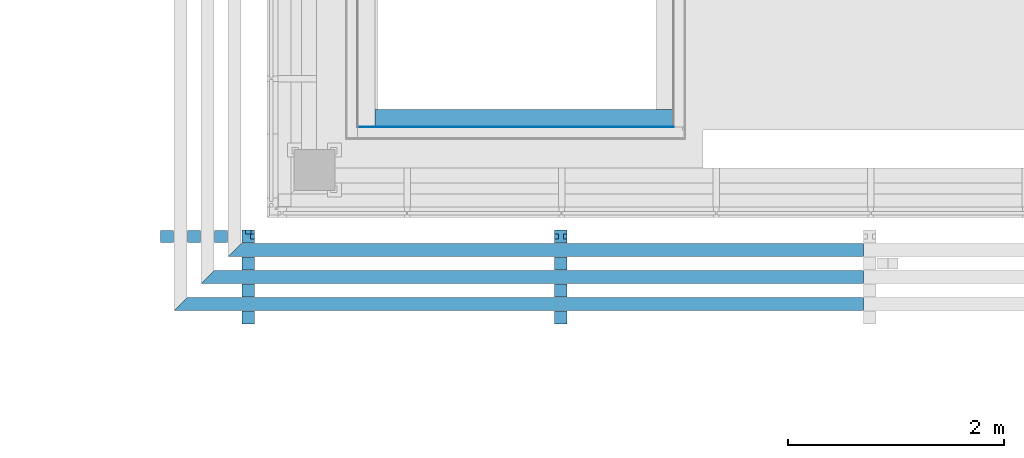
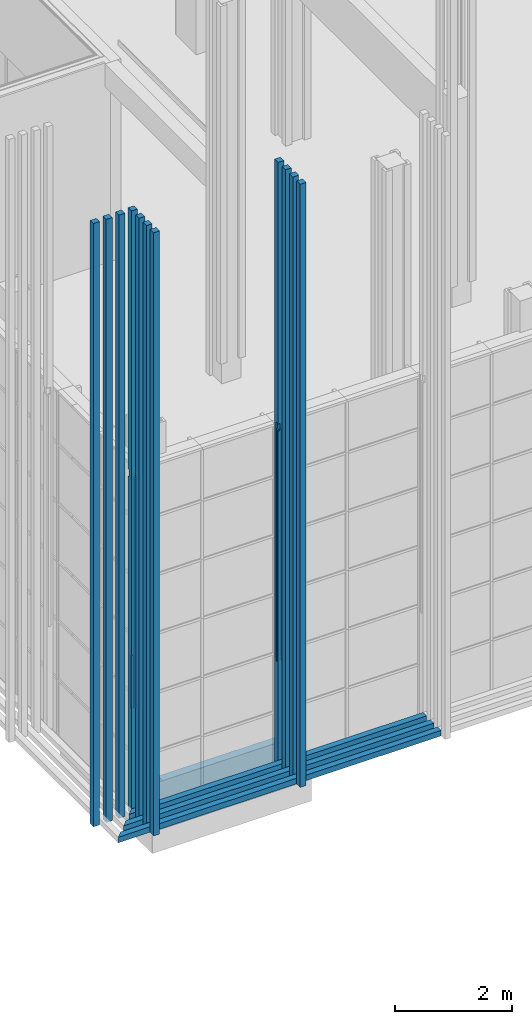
# One storey, part 126 of 260: 8 discrete accessories, 2 building element parts, 1 element without a shape of its own.
"""IFC2X3 building model written with IfcOpenShell, lengths in millimetres."""

from ifc_helpers import new_model, entity, si_unit, converted_unit, derived_unit, money_unit, direction, frame, origin_with_axes, place, context, subcontext, project, spatial, faceted_brep, material, material_list, type_object, element, aggregate, save


model = new_model("IFC2X3")

# Units and contexts
model_context = context("Model", 3, precision=0.01, world=origin_with_axes(), true_north=direction((0.0, 1.0)))
body_context = subcontext(model_context, "Body", "Model", "MODEL_VIEW")
ifc_project = project(units=[si_unit("LENGTHUNIT", "METRE", prefix="MILLI"), si_unit("AREAUNIT", "SQUARE_METRE"), si_unit("VOLUMEUNIT", "CUBIC_METRE"), converted_unit("PLANEANGLEUNIT", "DEGREE", entity("IfcPlaneAngleMeasure", 0.0174532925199), si_unit("PLANEANGLEUNIT", "RADIAN"), dimensions=[0, 0, 0, 0, 0, 0, 0]), money_unit("EUR"), converted_unit("TIMEUNIT", "Year", entity("IfcTimeMeasure", 31556926.0), si_unit("TIMEUNIT", "SECOND"), dimensions=[0, 0, 1, 0, 0, 0, 0]), si_unit("MASSUNIT", "GRAM", prefix="KILO"), si_unit("THERMODYNAMICTEMPERATUREUNIT", "DEGREE_CELSIUS"), si_unit("LUMINOUSINTENSITYUNIT", "LUMEN"), si_unit("ENERGYUNIT", "JOULE", prefix="MEGA"), derived_unit("THERMALCONDUCTANCEUNIT", [(si_unit("POWERUNIT", "WATT"), 1), (si_unit("LENGTHUNIT", "METRE"), -1), (si_unit("THERMODYNAMICTEMPERATUREUNIT", "KELVIN"), -1)]), derived_unit("SPECIFICHEATCAPACITYUNIT", [(si_unit("ENERGYUNIT", "JOULE"), 1), (si_unit("MASSUNIT", "GRAM", prefix="KILO"), -1), (si_unit("THERMODYNAMICTEMPERATUREUNIT", "KELVIN"), -1)]), derived_unit("MASSDENSITYUNIT", [(si_unit("MASSUNIT", "GRAM", prefix="KILO"), 1), (si_unit("VOLUMEUNIT", "CUBIC_METRE"), -1)])], contexts=[model_context])

# Site, building, storey
site_placement = place(None, origin_with_axes())
site = spatial("IfcSite", under=ifc_project, at=site_placement, Name="Kolde pst 67a", CompositionType="ELEMENT")
building_placement = place(site_placement, origin_with_axes())
building = spatial("IfcBuilding", under=site, at=building_placement, Name="Riigigümnaasium", CompositionType="ELEMENT")
storey_placement = place(building_placement, origin_with_axes())
storey = spatial("IfcBuildingStorey", under=building, at=storey_placement, Name="1. korrus", CompositionType="ELEMENT", Elevation=0.0)

# Discrete accessories
ifc_material_1 = material(Name="_VÄLISVIIMISTLUS - sõrmjätkatud puitprussid 120x115mm, liitekohad vähemärgatavad, Platowood sõrmjätkatud kuusk või samaväärne; eeltöödeldud tuletõkkevõõbaga, tuletundlikkus B-s1, d0, Woodsafe Exterior WFX™ või samaväärne; kinnitused vastavalt EK osale")
ifc_material_list_1 = material_list([ifc_material_1, ifc_material_1, ifc_material_1, ifc_material_1])
discrete_accessory_type_1 = type_object("IfcDiscreteAccessoryType", Name="120 4-ne vertikaalne 870 x 115")
discrete_accessory_1_placement = place(storey_placement, frame((23602.5030689, 23687.999767, 280.0), z_axis=(0.0, 0.0, 1.0), x_axis=(-3.13999128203e-06, 0.999999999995, 0.0)))
element("IfcDiscreteAccessory", 1, at=discrete_accessory_1_placement, inside=storey, type_object=discrete_accessory_type_1, material=ifc_material_list_1, Name="Päikesevarjestus", context=body_context, shape_type="Brep", body=[
    faceted_brep([(-47.9999120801, -37.4998901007, 3240.0), (-47.9999120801, -37.4998901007, 2150.0), (-48.0007441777, -69.9998458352, 2150.0), (-48.0007441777, -69.9998458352, 6990.0), (-48.0006421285, -37.5000001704, 6990.0), (-48.000634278, -34.9998458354, 6990.0), (-47.99990423, -34.9998458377, 3240.0), (-12.9999120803, -37.5000000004, 3240.0), (-12.9999120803, -37.5000000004, 2146.5), (-47.9999120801, -37.4998901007, 2146.5), (-47.99990423, -34.9998458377, 2150.0), (-98.0006342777, -34.9996888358, 2150.0), (-98.0007441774, -69.9996888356, 2150.0), (-98.0007441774, -69.9996888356, 6990.0), (-133.0, -70.0, 6990.0), (-133.0, -70.0, 0.0), (-13.0, -70.0, 0.0), (-13.0, -70.0, 12600.0), (-133.0, -70.0, 12600.0), (-133.0, -70.0, 7140.0), (-48.0007441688, -70.0, 7140.0), (-48.0026096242, -37.5000001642, 7140.0), (-47.9997550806, 45.0, 6990.0), (-13.0, -37.5000000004, 6990.0), (-13.0, 45.0, 6990.0), (-98.0006342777, -34.9996888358, 6990.0), (-12.9997550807, 12.4999999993, 3240.0), (-47.9997550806, 12.500109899, 3240.0), (-13.0, 45.0, 7140.0), (-13.0, 45.0, 12600.0), (-13.0, 45.0, 0.0), (-13.0, -37.5000000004, 7140.0), (-12.9997550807, 12.4999999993, 2146.5), (-47.9997550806, 12.500109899, 2146.5), (-133.0, -35.0016977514, 6990.0), (-133.0, 45.0, 0.0), (-133.0, -35.0016977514, 7140.0), (-133.0, 45.0, 12600.0), (-48.0027533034, -34.9968190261, 7140.0), (-47.9997550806, 45.0, 7140.0)], [[[0, 1, 2, 3, 4, 5, 6]], [[7, 8, 9, 1, 0]], [[1, 10, 11, 12, 2]], [[2, 12, 13, 14, 15, 16, 17, 18, 19, 20, 3]], [[21, 4, 3, 20]], [[22, 5, 4, 23, 24]], [[10, 6, 5, 25, 11]], [[26, 7, 0, 6, 27]], [[28, 29, 17, 16, 30, 24, 23, 31], [32, 8, 7, 26]], [[8, 32, 33, 9]], [[10, 1, 9, 33, 27, 6]], [[11, 25, 13, 12]], [[14, 13, 25, 34]], [[35, 15, 14, 34, 36, 19, 18, 37]], [[30, 16, 15, 35]], [[29, 37, 18, 17]], [[38, 39, 28, 31, 21, 20, 19, 36]], [[4, 21, 31, 23]], [[38, 5, 22, 39]], [[35, 37, 29, 28, 39, 22, 24, 30]], [[34, 25, 5, 38, 36]], [[32, 26, 27, 33]]]),
    faceted_brep([(-383.0, -70.0, 0.0), (-263.0, -70.0, 0.0), (-263.0, -70.0, 12600.0), (-383.0, -70.0, 12600.0), (-383.0, 45.0, 0.0), (-263.0, 45.0, 0.0), (-263.0, 45.0, 12600.0), (-383.0, 45.0, 12600.0)], [[[0, 1, 2, 3]], [[0, 4, 5, 1]], [[1, 5, 6, 2]], [[3, 2, 6, 7]], [[4, 0, 3, 7]], [[5, 4, 7, 6]]]),
    faceted_brep([(-633.0, -70.0, 0.0), (-513.0, -70.0, 0.0), (-513.0, -70.0, 12600.0), (-633.0, -70.0, 12600.0), (-633.0, 45.0, 0.0), (-513.0, 45.0, 0.0), (-513.0, 45.0, 12600.0), (-633.0, 45.0, 12600.0)], [[[0, 1, 2, 3]], [[0, 4, 5, 1]], [[1, 5, 6, 2]], [[3, 2, 6, 7]], [[4, 0, 3, 7]], [[5, 4, 7, 6]]]),
    faceted_brep([(-883.0, -70.0, 0.0), (-763.0, -70.0, 0.0), (-763.0, -70.0, 12600.0), (-883.0, -70.0, 12600.0), (-883.0, 45.0, 0.0), (-763.0, 45.0, 0.0), (-763.0, 45.0, 12600.0), (-883.0, 45.0, 12600.0)], [[[0, 1, 2, 3]], [[0, 4, 5, 1]], [[1, 5, 6, 2]], [[3, 2, 6, 7]], [[4, 0, 3, 7]], [[5, 4, 7, 6]]]),
])
discrete_accessory_2_placement = place(storey_placement, frame((26497.5025222, 23687.999745, 280.0), z_axis=(0.0, 0.0, 1.0), x_axis=(-3.13999128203e-06, 0.999999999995, 0.0)))
element("IfcDiscreteAccessory", 2, at=discrete_accessory_2_placement, inside=storey, type_object=discrete_accessory_type_1, material=ifc_material_list_1, Name="Päikesevarjestus", context=body_context, shape_type="Brep", body=[
    faceted_brep([(-48.0003611, 44.9997331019, 6990.0), (-48.0004709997, 9.99973310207, 6990.0), (-47.8300549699, 10.0027698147, 6990.0), (-47.8320637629, 45.0, 6990.0), (-48.0003611, 44.9997331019, 2150.0), (-48.0004709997, 9.99973310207, 2150.0), (-98.0004709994, 9.99989010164, 6990.0), (-133.0, 9.99788117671, 6990.0), (-133.0, 9.99788117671, 7140.0), (-47.8300549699, 10.0027698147, 7140.0), (-47.8320637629, 45.0, 7140.0), (-133.0, 45.0, 7140.0), (-133.0, 45.0, 12600.0), (-13.0, 45.0, 12600.0), (-13.0, 45.0, 0.0), (-133.0, 45.0, 0.0), (-133.0, 45.0, 6990.0), (-98.0003610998, 44.9998901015, 6990.0), (-98.0003610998, 44.9998901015, 2150.0), (-98.0004709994, 9.99989010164, 2150.0), (-133.0, -35.002244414, 7140.0), (-133.0, -70.0, 7140.0), (-133.0, -70.0, 12600.0), (-133.0, -70.0, 0.0), (-133.0, -70.0, 6990.0), (-133.0, -35.002244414, 6990.0), (-13.0, -70.0, 12600.0), (-13.0, -70.0, 0.0), (-48.0006124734, -34.9973655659, 7140.0), (-47.9986033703, -70.0, 7140.0), (-48.0007221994, -70.0003924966, 6990.0), (-48.0007221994, -70.0003924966, 2150.0), (-98.0007221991, -70.0002354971, 2150.0), (-98.0007221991, -70.0002354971, 6990.0), (-98.0006122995, -35.0002354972, 6990.0), (-48.0006122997, -35.0003924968, 6990.0), (-48.0006122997, -35.0003924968, 2150.0), (-98.0006122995, -35.0002354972, 2150.0)], [[[0, 1, 2, 3]], [[1, 0, 4, 5]], [[1, 6, 7, 8, 9, 2]], [[2, 9, 10, 3]], [[4, 0, 3, 10, 11, 12, 13, 14, 15, 16, 17, 18]], [[4, 18, 19, 5]], [[6, 1, 5, 19]], [[6, 17, 16, 7]], [[20, 21, 22, 12, 11, 8, 7, 16, 15, 23, 24, 25]], [[10, 9, 8, 11]], [[26, 13, 12, 22]], [[14, 13, 26, 27]], [[15, 14, 27, 23]], [[17, 6, 19, 18]], [[20, 28, 29, 21]], [[29, 30, 31, 32, 33, 24, 23, 27, 26, 22, 21]], [[34, 25, 24, 33]], [[28, 20, 25, 34, 35]], [[30, 29, 28, 35]], [[30, 35, 36, 31]], [[31, 36, 37, 32]], [[33, 32, 37, 34]], [[34, 37, 36, 35]]]),
    faceted_brep([(-383.0, -70.0, 0.0), (-263.0, -70.0, 0.0), (-263.0, -70.0, 12600.0), (-383.0, -70.0, 12600.0), (-383.0, 45.0, 0.0), (-263.0, 45.0, 0.0), (-263.0, 45.0, 12600.0), (-383.0, 45.0, 12600.0)], [[[0, 1, 2, 3]], [[0, 4, 5, 1]], [[1, 5, 6, 2]], [[3, 2, 6, 7]], [[4, 0, 3, 7]], [[5, 4, 7, 6]]]),
    faceted_brep([(-633.0, -70.0, 0.0), (-513.0, -70.0, 0.0), (-513.0, -70.0, 12600.0), (-633.0, -70.0, 12600.0), (-633.0, 45.0, 0.0), (-513.0, 45.0, 0.0), (-513.0, 45.0, 12600.0), (-633.0, 45.0, 12600.0)], [[[0, 1, 2, 3]], [[0, 4, 5, 1]], [[1, 5, 6, 2]], [[3, 2, 6, 7]], [[4, 0, 3, 7]], [[5, 4, 7, 6]]]),
    faceted_brep([(-883.0, -70.0, 0.0), (-763.0, -70.0, 0.0), (-763.0, -70.0, 12600.0), (-883.0, -70.0, 12600.0), (-883.0, 45.0, 0.0), (-763.0, 45.0, 0.0), (-763.0, 45.0, 12600.0), (-883.0, 45.0, 12600.0)], [[[0, 1, 2, 3]], [[0, 4, 5, 1]], [[1, 5, 6, 2]], [[3, 2, 6, 7]], [[4, 0, 3, 7]], [[5, 4, 7, 6]]]),
])
ifc_material_list_2 = material_list([ifc_material_1, ifc_material_1, ifc_material_1])
discrete_accessory_type_2 = type_object("IfcDiscreteAccessoryType", Name="120 4-ne vertikaalne -1 nurgaribi 620 x 115")
discrete_accessory_3_placement = place(storey_placement, frame((23688.0032589, 23627.4999036, 280.0), z_axis=(0.0, 0.0, 1.0), x_axis=(0.999999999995, 3.13999128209e-06, 0.0)))
element("IfcDiscreteAccessory", 3, at=discrete_accessory_3_placement, inside=storey, type_object=discrete_accessory_type_2, material=ifc_material_list_2, Name="Päikesevarjestus", context=body_context, shape_type="Brep", body=[
    faceted_brep([(-383.0, -70.0, 0.0), (-263.0, -70.0, 0.0), (-263.0, -70.0, 12600.0), (-383.0, -70.0, 12600.0), (-383.0, 45.0, 0.0), (-263.0, 45.0, 0.0), (-263.0, 45.0, 12600.0), (-383.0, 45.0, 12600.0)], [[[0, 1, 2, 3]], [[0, 4, 5, 1]], [[1, 5, 6, 2]], [[3, 2, 6, 7]], [[4, 0, 3, 7]], [[5, 4, 7, 6]]]),
    faceted_brep([(-633.0, -70.0, 0.0), (-513.0, -70.0, 0.0), (-513.0, -70.0, 12600.0), (-633.0, -70.0, 12600.0), (-633.0, 45.0, 0.0), (-513.0, 45.0, 0.0), (-513.0, 45.0, 12600.0), (-633.0, 45.0, 12600.0)], [[[0, 1, 2, 3]], [[0, 4, 5, 1]], [[1, 5, 6, 2]], [[3, 2, 6, 7]], [[4, 0, 3, 7]], [[5, 4, 7, 6]]]),
    faceted_brep([(-883.0, -70.0, 0.0), (-763.0, -70.0, 0.0), (-763.0, -70.0, 12600.0), (-883.0, -70.0, 12600.0), (-883.0, 45.0, 0.0), (-763.0, 45.0, 0.0), (-763.0, 45.0, 12600.0), (-883.0, 45.0, 12600.0)], [[[0, 1, 2, 3]], [[0, 4, 5, 1]], [[1, 5, 6, 2]], [[3, 2, 6, 7]], [[4, 0, 3, 7]], [[5, 4, 7, 6]]]),
])
discrete_accessory_type_3 = type_object("IfcDiscreteAccessoryType", Name="120 1+paiksekaitse 3 tk  620 x 115")
discrete_accessory_4_placement = place(storey_placement, frame((23675.0028048, 23674.9999727, 352.5), z_axis=(0.0, 0.0, 1.0), x_axis=(0.0, -1.0, 0.0)))
element("IfcDiscreteAccessory", 4, at=discrete_accessory_4_placement, inside=storey, type_object=discrete_accessory_type_3, material=ifc_material_list_2, Name="Päikesevarjestus", context=body_context, shape_type="Brep", body=[
    faceted_brep([(625.0, 5634.99975824, 45.0), (625.0, -624.998037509, 45.0), (745.0, -744.99766071, 45.0), (745.0, 5634.99975824, 45.0), (625.0, 5634.99975824, -70.0), (625.0, -624.998037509, -70.0), (745.0, -744.99766071, -70.0), (745.0, 5634.99975824, -70.0)], [[[0, 1, 2, 3]], [[4, 5, 1, 0]], [[5, 6, 2, 1]], [[3, 2, 6, 7]], [[4, 0, 3, 7]], [[7, 6, 5, 4]]]),
    faceted_brep([(375.0, 5634.99975824, 45.0), (375.0, -374.998822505, 45.0), (495.0, -494.998445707, 45.0), (495.0, 5634.99975824, 45.0), (375.0, 5634.99975824, -70.0), (375.0, -374.998822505, -70.0), (495.0, -494.998445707, -70.0), (495.0, 5634.99975824, -70.0)], [[[0, 1, 2, 3]], [[4, 5, 1, 0]], [[5, 6, 2, 1]], [[3, 2, 6, 7]], [[4, 0, 3, 7]], [[7, 6, 5, 4]]]),
    faceted_brep([(125.0, 5634.99975824, 45.0), (125.0, -124.999607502, 45.0), (245.0, -244.999230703, 45.0), (245.0, 5634.99975824, 45.0), (125.0, 5634.99975824, -70.0), (125.0, -124.999607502, -70.0), (245.0, -244.999230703, -70.0), (245.0, 5634.99975824, -70.0)], [[[0, 1, 2, 3]], [[4, 5, 1, 0]], [[5, 6, 2, 1]], [[3, 2, 6, 7]], [[4, 0, 3, 7]], [[7, 6, 5, 4]]]),
])
ifc_material_2 = material(Name="_METALL - teras")
discrete_accessory_type_4 = type_object("IfcDiscreteAccessoryType", Name="_METALL - teras 50 x 35")
discrete_accessory_5_placement = place(storey_placement, frame((26550.0030654, 23614.9992426, 2430.0), z_axis=(0.0, 0.0, 1.0), x_axis=(0.0, 1.0, 0.0)))
element("IfcDiscreteAccessory", 5, at=discrete_accessory_5_placement, inside=storey, type_object=discrete_accessory_type_4, material=ifc_material_2, Name="Varjestuskardina külgsiin RENSON või analoog", context=body_context, shape_type="Brep", body=[
    faceted_brep([(-25.0, -17.5, 4840.0), (-25.0, -17.5, 0.0), (25.0, -17.5, 0.0), (25.0, -17.5, 4840.0), (-25.0, 17.5, 4840.0), (-25.0, 17.5, 0.0), (25.0, 17.5, 0.0), (25.0, 17.5, 4840.0)], [[[0, 1, 2, 3]], [[4, 5, 1, 0]], [[2, 1, 5, 6]], [[3, 2, 6, 7]], [[4, 0, 3, 7]], [[7, 6, 5, 4]]]),
])
discrete_accessory_6_placement = place(storey_placement, frame((26470.0029398, 23614.9992426, 2430.0), z_axis=(0.0, 0.0, 1.0), x_axis=(0.0, -1.0, 0.0)))
element("IfcDiscreteAccessory", 6, at=discrete_accessory_6_placement, inside=storey, type_object=discrete_accessory_type_4, material=ifc_material_2, Name="Varjestuskardina külgsiin RENSON või analoog", context=body_context, shape_type="Brep", body=[
    faceted_brep([(25.0, 17.5, 4840.0), (25.0, 17.5, 0.0), (-25.0, 17.5, 0.0), (-25.0, 17.5, 4840.0), (25.0, -17.5, 4840.0), (25.0, -17.5, 0.0), (-25.0, -17.5, 0.0), (-25.0, -17.5, 4840.0)], [[[0, 1, 2, 3]], [[4, 5, 1, 0]], [[2, 1, 5, 6]], [[3, 2, 6, 7]], [[4, 0, 3, 7]], [[7, 6, 5, 4]]]),
])
discrete_accessory_7_placement = place(storey_placement, frame((23655.0030654, 23614.9992426, 2430.0), z_axis=(0.0, 0.0, 1.0), x_axis=(0.0, 1.0, 0.0)))
element("IfcDiscreteAccessory", 7, at=discrete_accessory_7_placement, inside=storey, type_object=discrete_accessory_type_4, material=ifc_material_2, Name="Varjestuskardina külgsiin RENSON või analoog", context=body_context, shape_type="Brep", body=[
    faceted_brep([(-25.0, -17.5, 4840.0), (-25.0, -17.5, 0.0), (25.0, -17.5, 0.0), (25.0, -17.5, 4840.0), (-25.0, 17.5, 4840.0), (-25.0, 17.5, 0.0), (25.0, 17.5, 0.0), (25.0, 17.5, 4840.0)], [[[0, 1, 2, 3]], [[4, 5, 1, 0]], [[2, 1, 5, 6]], [[3, 2, 6, 7]], [[4, 0, 3, 7]], [[7, 6, 5, 4]]]),
])
discrete_accessory_8_placement = place(storey_placement, frame((23615.0031097, 23657.4999727, 2426.5), z_axis=(0.0, 0.0, 1.0), x_axis=(-1.0, 0.0, 0.0)))
element("IfcDiscreteAccessory", 8, at=discrete_accessory_8_placement, inside=storey, type_object=discrete_accessory_type_4, material=ifc_material_2, Name="Varjestuskardina külgsiin RENSON või analoog", context=body_context, shape_type="Brep", body=[
    faceted_brep([(-25.0, -17.5, 1093.5), (-25.0, -17.5, 0.0), (25.0, -17.5, 0.0), (25.0, -17.5, 1093.5), (-25.0, 17.5, 1093.5), (-25.0, 17.5, 0.0), (25.0, 17.5, 0.0), (25.0, 17.5, 1093.5)], [[[0, 1, 2, 3]], [[4, 5, 1, 0]], [[2, 1, 5, 6]], [[3, 2, 6, 7]], [[4, 0, 3, 7]], [[7, 6, 5, 4]]]),
])

# Wall, building element parts
wall_type = type_object("IfcWallType", Name="VS-RB-16/1_mullakast 273", PredefinedType="NOTDEFINED")
wall_placement = place(storey_placement, frame((24630.0567695, 24630.0, -1460.1), z_axis=(0.0, 0.0, 1.0), x_axis=(1.0, 0.0, 0.0)))
wall = element("IfcWall", 9, at=wall_placement, inside=storey, type_object=wall_type, Name="taimekast")
ifc_material_3 = material(Name="_KANDETARIND - monoliitne raudbetoon vastavalt EK osale")
building_element_part_1_placement = place(wall_placement, origin_with_axes())
building_element_part_1 = element("IfcBuildingElementPart", 10, at=building_element_part_1_placement, material=ifc_material_3, Name="_KANDETARIND - monoliitne raudbetoon vastavalt EK osale", context=body_context, shape_type="Brep", body=[
    faceted_brep([(2920.0, 69.7004607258, 1260.00001148), (2920.0, 160.0, 1260.00001148), (2920.0, 160.0, 1360.1), (2920.0, 0.0, 1360.1), (2920.0, 0.0, 1345.1), (2920.0, 69.7004604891, 1345.1), (2804.77558081, 160.0, 1260.00001148), (2804.77558081, 69.7004607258, 1260.00001148), (2804.77558081, 160.0, 1130.00074455), (2920.0, 160.0, 1130.00074455), (2920.0, 160.0, 350.1), (160.0, 160.0, 350.1), (160.0, 160.0, 1360.1), (160.0, 0.0, 1360.1), (2804.77558081, 0.0, 1130.0), (2804.77558081, 0.0, 1345.1), (160.0, 0.0, 350.1), (2920.0, 0.0, 350.1), (2920.0, 0.0, 1129.9999969), (2804.77558081, 69.7004604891, 1345.1), (2804.77558081, 69.7004574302, 1130.00188294)], [[[0, 1, 2, 3, 4, 5]], [[6, 1, 0, 7]], [[8, 9, 10, 11, 12, 2, 1, 6]], [[3, 2, 12, 13]], [[14, 15, 4, 3, 13, 16, 17, 18]], [[19, 5, 4, 15]], [[7, 0, 5, 19]], [[20, 8, 6, 7, 19, 15, 14]], [[9, 8, 20, 14, 18]], [[9, 18, 17, 10]], [[11, 10, 17, 16]], [[11, 16, 13, 12]]]),
])
ifc_material_4 = material(Name="_HÜDROISOLATSIOON/RADOONITÕKE - eelpaigaldatav elastne hüdroisolatsioonimembraan, värske betooniga nakkuv, radoonitihe, FORSOC PROOFEX 3000 või samaväärne")
building_element_part_2_placement = place(wall_placement, origin_with_axes())
building_element_part_2 = element("IfcBuildingElementPart", 11, at=building_element_part_2_placement, material=ifc_material_4, Name="_HÜDROISOLATSIOON/RADOONITÕKE - eelpaigaldatav elastne hüdroisolatsioonimembraan, värske betooniga nakkuv, radoonitihe, FORSOC PROOFEX 3000 või samaväärne", context=body_context, shape_type="Brep", body=[
    faceted_brep([(2923.0, -3.0, 1345.1), (2923.0, 0.0, 1345.1), (2923.0, 0.0, 1360.1), (2923.0, -3.0, 1360.1), (2804.77558081, 0.0, 1345.1), (2804.77558081, -3.0, 1345.1), (2804.77558081, 0.0, 1130.0), (2923.0, 0.0, 1129.9999969), (2923.0, 0.0, 350.1), (0.0, 0.0, 350.1), (0.0, 0.0, 1360.1), (0.0, -3.0, 1360.1), (0.0, -3.0, 350.1), (2923.0, -3.0, 350.1), (2923.0, -3.0, 1129.99999721), (2804.77558081, -3.0, 1130.0)], [[[0, 1, 2, 3]], [[4, 1, 0, 5]], [[6, 7, 8, 9, 10, 2, 1, 4]], [[11, 3, 2, 10]], [[5, 0, 3, 11, 12, 13, 14, 15]], [[6, 4, 5, 15]], [[14, 7, 6, 15]], [[7, 14, 13, 8]], [[12, 9, 8, 13]], [[10, 9, 12, 11]]]),
])
aggregate(wall, [building_element_part_1, building_element_part_2])

save(model, "model.ifc")
